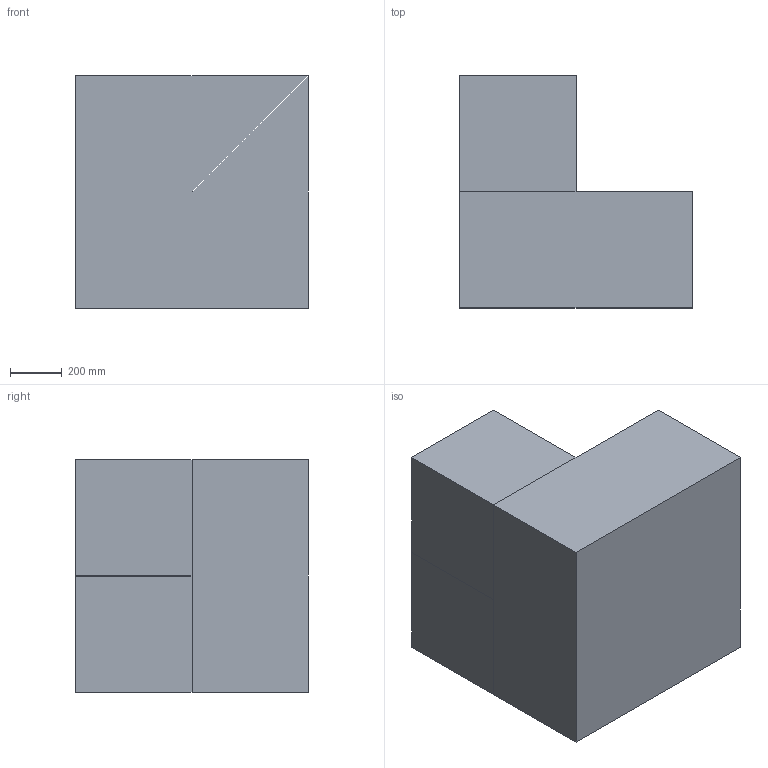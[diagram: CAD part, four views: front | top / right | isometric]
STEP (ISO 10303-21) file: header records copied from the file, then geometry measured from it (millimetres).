
FILE_DESCRIPTION (( 'STEP AP203' ), '1' );
FILE_NAME ('Type A Cubby.STEP', '2019-01-15T13:53:20', ( '' ), ( '' ), 'SwSTEP 2.0', 'SolidWorks 2019', '' );
FILE_SCHEMA (( 'CONFIG_CONTROL_DESIGN' ));
Length unit declared in the file: millimetre
Products named in the file (4): Extrabox Cubby Type B_Domy˜lna; Type A Cubby; Extrabox Type D_Domy˜lna; Extrabox Type A_Domy˜lna
Assembly tree (3 placements, depth 2):
  Type A Cubby
    Extrabox Type D_Domy˜lna
    Extrabox Cubby Type B_Domy˜lna
    Extrabox Type A_Domy˜lna
Bounding box: 900 x 900 x 900 mm (x, y, z)
Volume: 473774136 mm3; surface area: 6447376 mm2
Topology: 3 solids, 3 shells, 28 faces, 60 edges, 40 vertices
Faces by surface type: plane 28
Entity records: 1158 total; most frequent: CARTESIAN_POINT 134, DIRECTION 128, ORIENTED_EDGE 120, VECTOR 60, LINE 60, EDGE_CURVE 60, VERTEX_POINT 40, PERSON_AND_ORGANIZATION 35
